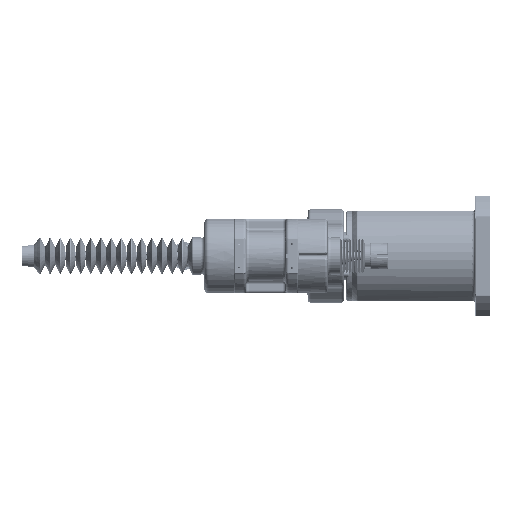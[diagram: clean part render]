
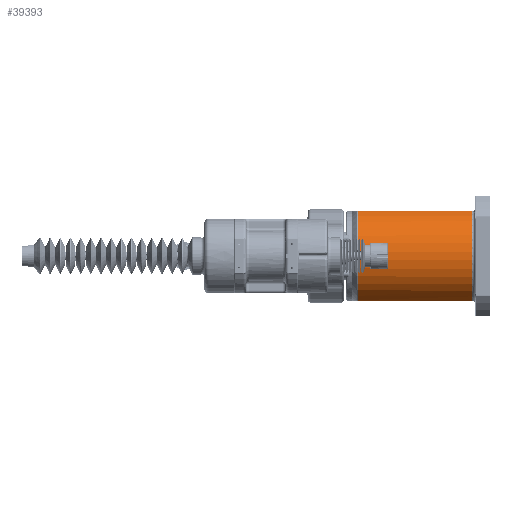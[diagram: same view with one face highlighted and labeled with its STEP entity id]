
A CAD part, left-side view. The second image highlights one B-rep face of the part: STEP entity #39393.
In plain terms, the highlighted cylindrical face has radius 83 mm (diameter 166 mm), a partial arc.
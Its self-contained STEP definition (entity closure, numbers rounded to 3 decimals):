
#5746 = VECTOR ( 'NONE', #133003, 1000. ) ;
#5875 = B_SPLINE_CURVE_WITH_KNOTS ( 'NONE', 3,
 ( #41963, #66264, #91725, #16025, #17118, #29846, #115928, #28195 ),
 .UNSPECIFIED., .F., .F.,
 ( 4, 2, 2, 4 ),
 ( 0., 0.001, 0.001, 0.002 ),
 .UNSPECIFIED. ) ;
#9475 = CARTESIAN_POINT ( 'NONE',  ( 0., 221.172, 0. ) ) ;
#12046 = EDGE_CURVE ( 'NONE', #22918, #110214, #5875, .T. ) ;
#14409 = CARTESIAN_POINT ( 'NONE',  ( -37.726, 221.172, -73.931 ) ) ;
#16025 = CARTESIAN_POINT ( 'NONE',  ( -36.729, 221.064, -74.431 ) ) ;
#17118 = CARTESIAN_POINT ( 'NONE',  ( -36.589, 221.026, -74.5 ) ) ;
#22918 = VERTEX_POINT ( 'NONE', #14409 ) ;
#23846 = CARTESIAN_POINT ( 'NONE',  ( -37.152, 221.15, 74.221 ) ) ;
#28195 = CARTESIAN_POINT ( 'NONE',  ( -36.048, 220.78, -74.763 ) ) ;
#29846 = CARTESIAN_POINT ( 'NONE',  ( -36.312, 220.925, -74.636 ) ) ;
#30002 = FACE_OUTER_BOUND ( 'NONE', #99646, .T. ) ;
#31017 = DIRECTION ( 'NONE',  ( 0., 1., 0. ) ) ;
#32332 = ORIENTED_EDGE ( 'NONE', *, *, #40060, .T. ) ;
#33041 = CARTESIAN_POINT ( 'NONE',  ( -36.048, 30., -74.763 ) ) ;
#39127 = EDGE_CURVE ( 'NONE', #110214, #121552, #69395, .T. ) ;
#39393 = ADVANCED_FACE ( 'NONE', ( #30002 ), #39732, .T. ) ;
#39732 = CYLINDRICAL_SURFACE ( 'NONE', #139047, 83. ) ;
#40060 = EDGE_CURVE ( 'NONE', #69038, #48590, #144100, .T. ) ;
#41963 = CARTESIAN_POINT ( 'NONE',  ( -37.726, 221.172, -73.931 ) ) ;
#42317 = DIRECTION ( 'NONE',  ( -1., 0., 0. ) ) ;
#44709 = CARTESIAN_POINT ( 'NONE',  ( -36.048, 230., 74.763 ) ) ;
#46944 = CARTESIAN_POINT ( 'NONE',  ( -37.726, 221.172, 73.931 ) ) ;
#48590 = VERTEX_POINT ( 'NONE', #46944 ) ;
#50357 = CARTESIAN_POINT ( 'NONE',  ( -36.048, 220.78, -74.763 ) ) ;
#52254 = ORIENTED_EDGE ( 'NONE', *, *, #116289, .T. ) ;
#54149 = CARTESIAN_POINT ( 'NONE',  ( 0., 30., 0. ) ) ;
#55904 = ORIENTED_EDGE ( 'NONE', *, *, #39127, .T. ) ;
#60856 = CARTESIAN_POINT ( 'NONE',  ( -36.302, 220.942, 74.641 ) ) ;
#61716 = DIRECTION ( 'NONE',  ( 0., -1., 0. ) ) ;
#66264 = CARTESIAN_POINT ( 'NONE',  ( -37.438, 221.172, -74.078 ) ) ;
#69038 = VERTEX_POINT ( 'NONE', #113802 ) ;
#69395 = LINE ( 'NONE', #137290, #158274 ) ;
#71148 = ORIENTED_EDGE ( 'NONE', *, *, #137708, .T. ) ;
#83391 = CARTESIAN_POINT ( 'NONE',  ( -36.048, 30., 74.763 ) ) ;
#86841 = VERTEX_POINT ( 'NONE', #83391 ) ;
#87927 = CARTESIAN_POINT ( 'NONE',  ( -37.726, 221.172, 73.931 ) ) ;
#91725 = CARTESIAN_POINT ( 'NONE',  ( -37.152, 221.15, -74.221 ) ) ;
#92746 = CIRCLE ( 'NONE', #106921, 83. ) ;
#98464 = CARTESIAN_POINT ( 'NONE',  ( -36.586, 221.035, 74.502 ) ) ;
#99646 = EDGE_LOOP ( 'NONE', ( #126023, #55904, #52254, #71148, #32332, #149560 ) ) ;
#100134 = EDGE_CURVE ( 'NONE', #48590, #22918, #92746, .T. ) ;
#100613 = CARTESIAN_POINT ( 'NONE',  ( -37.438, 221.172, 74.077 ) ) ;
#106921 = AXIS2_PLACEMENT_3D ( 'NONE', #9475, #110484, #123139 ) ;
#110214 = VERTEX_POINT ( 'NONE', #50357 ) ;
#110484 = DIRECTION ( 'NONE',  ( 0., -1., 0. ) ) ;
#113802 = CARTESIAN_POINT ( 'NONE',  ( -36.048, 220.78, 74.763 ) ) ;
#115928 = CARTESIAN_POINT ( 'NONE',  ( -36.176, 220.862, -74.702 ) ) ;
#116289 = EDGE_CURVE ( 'NONE', #121552, #86841, #140388, .T. ) ;
#119292 = DIRECTION ( 'NONE',  ( 1., 0., 0. ) ) ;
#121552 = VERTEX_POINT ( 'NONE', #33041 ) ;
#123139 = DIRECTION ( 'NONE',  ( -1., 0., 0. ) ) ;
#126023 = ORIENTED_EDGE ( 'NONE', *, *, #12046, .T. ) ;
#133003 = DIRECTION ( 'NONE',  ( 0., 1., 0. ) ) ;
#133997 = LINE ( 'NONE', #44709, #5746 ) ;
#137290 = CARTESIAN_POINT ( 'NONE',  ( -36.048, 230., -74.763 ) ) ;
#137708 = EDGE_CURVE ( 'NONE', #86841, #69038, #133997, .T. ) ;
#139047 = AXIS2_PLACEMENT_3D ( 'NONE', #140535, #153173, #42317 ) ;
#140388 = CIRCLE ( 'NONE', #146181, 83. ) ;
#140535 = CARTESIAN_POINT ( 'NONE',  ( 0., 230., 0. ) ) ;
#144100 = B_SPLINE_CURVE_WITH_KNOTS ( 'NONE', 3,
 ( #162809, #60856, #98464, #23846, #100613, #87927 ),
 .UNSPECIFIED., .F., .F.,
 ( 4, 2, 4 ),
 ( 0., 0.001, 0.002 ),
 .UNSPECIFIED. ) ;
#146181 = AXIS2_PLACEMENT_3D ( 'NONE', #54149, #31017, #119292 ) ;
#149560 = ORIENTED_EDGE ( 'NONE', *, *, #100134, .T. ) ;
#153173 = DIRECTION ( 'NONE',  ( 0., 1., 0. ) ) ;
#158274 = VECTOR ( 'NONE', #61716, 1000. ) ;
#162809 = CARTESIAN_POINT ( 'NONE',  ( -36.048, 220.78, 74.763 ) ) ;
